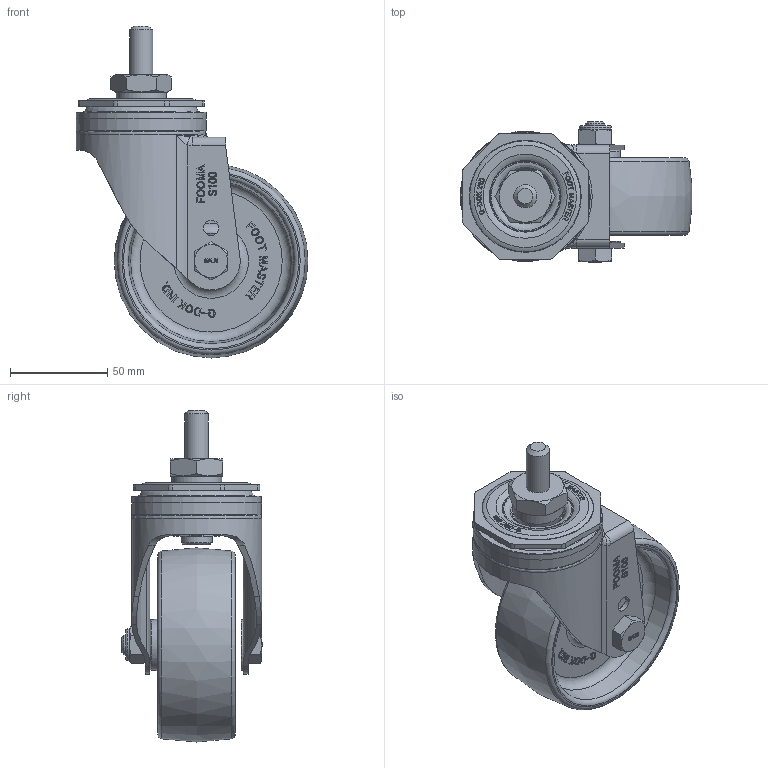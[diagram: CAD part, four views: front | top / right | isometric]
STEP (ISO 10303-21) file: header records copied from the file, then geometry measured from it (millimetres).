
FILE_DESCRIPTION(/* description */ (''),/* implementation_level */ '2;1');
FILE_NAME(/* name */ '\\192.168.10.38\지덕공유\1.기술연구소\2.연구개발 완료\완료_98.스테인레스캐스터 개발건_2023.10.26\제품설계\3D\홈페이지용\NYP\STP\SPLM-100-ASS-NYP-PM12.stp',/* time_stamp */ '2025-07-17T16:30:52+09:00',/* author */ ('admin'),/* organization */ ('지덕산업'),/* preprocessor_version */ 'ST-DEVELOPER v18.1',/* originating_system */ 'Autodesk Inventor 2021',/* authorisation */ '');
FILE_SCHEMA (('CONFIG_CONTROL_DESIGN'));
Length unit declared in the file: millimetre
Products named in the file (1): SPLM-100-ASS-NYP-PM12
Bounding box: 119.32 x 72.3 x 171 mm (x, y, z)
Volume: 263946.7 mm3; surface area: 73733.5 mm2
Topology: 1 solids, 1 shells, 1306 faces, 3531 edges, 2335 vertices
Faces by surface type: plane 664, bspline 464, cylinder 94, cone 52, torus 32
Full cylindrical faces by diameter (mm): 8 x2, 10 x1, 11 x1, 12 x1, 16 x2, 16.5 x1, 25.8 x1, 54 x1, 67 x1
Entity records: 42107 total; most frequent: CARTESIAN_POINT 12583, ORIENTED_EDGE 7054, DIRECTION 4406, EDGE_CURVE 3527, VERTEX_POINT 2335, LINE 2116, VECTOR 2116, EDGE_LOOP 1424
